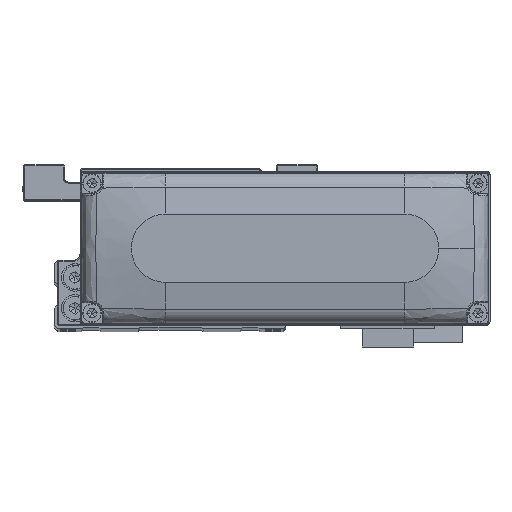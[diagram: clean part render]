
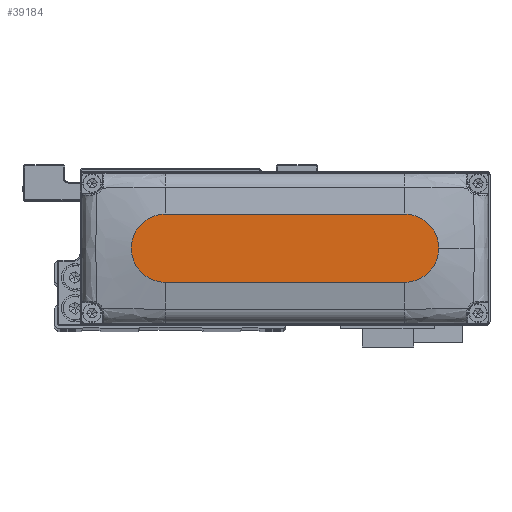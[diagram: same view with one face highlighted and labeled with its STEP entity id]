
A CAD part, top view. The second image highlights one B-rep face of the part: STEP entity #39184.
In plain terms, the highlighted planar face has unit normal (0, 0, 1).
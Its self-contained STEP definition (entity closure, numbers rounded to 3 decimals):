
#87 = ORIENTED_EDGE ( 'NONE', *, *, #38954, .T. ) ;
#282 = CIRCLE ( 'NONE', #5379, 10. ) ;
#2973 = DIRECTION ( 'NONE',  ( 1., 0., 0. ) ) ;
#3257 = CARTESIAN_POINT ( 'NONE',  ( -35., -10., 28. ) ) ;
#3337 = DIRECTION ( 'NONE',  ( 1., 0., 0. ) ) ;
#3616 = DIRECTION ( 'NONE',  ( 1., 0., 0. ) ) ;
#4637 = VERTEX_POINT ( 'NONE', #20233 ) ;
#5353 = ORIENTED_EDGE ( 'NONE', *, *, #6641, .T. ) ;
#5379 = AXIS2_PLACEMENT_3D ( 'NONE', #18800, #30968, #3616 ) ;
#5773 = ORIENTED_EDGE ( 'NONE', *, *, #19021, .T. ) ;
#6641 = EDGE_CURVE ( 'NONE', #4637, #14658, #9478, .T. ) ;
#7633 = DIRECTION ( 'NONE',  ( 1., 0., 0. ) ) ;
#8170 = DIRECTION ( 'NONE',  ( 1., 0., 0. ) ) ;
#9478 = LINE ( 'NONE', #21657, #26327 ) ;
#11175 = PLANE ( 'NONE',  #14969 ) ;
#11186 = CIRCLE ( 'NONE', #33487, 10. ) ;
#11704 = VERTEX_POINT ( 'NONE', #3257 ) ;
#13463 = CARTESIAN_POINT ( 'NONE',  ( 35., -10., 28. ) ) ;
#14658 = VERTEX_POINT ( 'NONE', #38676 ) ;
#14969 = AXIS2_PLACEMENT_3D ( 'NONE', #23359, #35490, #8170 ) ;
#18151 = CARTESIAN_POINT ( 'NONE',  ( 35., 0., 28. ) ) ;
#18521 = CARTESIAN_POINT ( 'NONE',  ( 35., 0., 28. ) ) ;
#18800 = CARTESIAN_POINT ( 'NONE',  ( -35., 0., 28. ) ) ;
#19021 = EDGE_CURVE ( 'NONE', #29009, #4637, #32071, .T. ) ;
#19410 = CARTESIAN_POINT ( 'NONE',  ( 45., 0., 28. ) ) ;
#20233 = CARTESIAN_POINT ( 'NONE',  ( 35., 10., 28. ) ) ;
#21650 = ORIENTED_EDGE ( 'NONE', *, *, #30684, .T. ) ;
#21657 = CARTESIAN_POINT ( 'NONE',  ( -35., 10., 28. ) ) ;
#21884 = EDGE_CURVE ( 'NONE', #24191, #29009, #11186, .T. ) ;
#22818 = LINE ( 'NONE', #34960, #28984 ) ;
#23204 = ORIENTED_EDGE ( 'NONE', *, *, #21884, .T. ) ;
#23359 = CARTESIAN_POINT ( 'NONE',  ( 0., 0., 28. ) ) ;
#24191 = VERTEX_POINT ( 'NONE', #13463 ) ;
#26327 = VECTOR ( 'NONE', #33804, 1000. ) ;
#28984 = VECTOR ( 'NONE', #7633, 1000. ) ;
#29009 = VERTEX_POINT ( 'NONE', #19410 ) ;
#30320 = DIRECTION ( 'NONE',  ( 0., 0., 1. ) ) ;
#30677 = DIRECTION ( 'NONE',  ( 0., 0., 1. ) ) ;
#30684 = EDGE_CURVE ( 'NONE', #11704, #24191, #22818, .T. ) ;
#30968 = DIRECTION ( 'NONE',  ( 0., 0., 1. ) ) ;
#32071 = CIRCLE ( 'NONE', #37146, 10. ) ;
#33487 = AXIS2_PLACEMENT_3D ( 'NONE', #18151, #30320, #2973 ) ;
#33804 = DIRECTION ( 'NONE',  ( -1., 0., 0. ) ) ;
#34960 = CARTESIAN_POINT ( 'NONE',  ( -35., -10., 28. ) ) ;
#35490 = DIRECTION ( 'NONE',  ( 0., 0., 1. ) ) ;
#36390 = EDGE_LOOP ( 'NONE', ( #5353, #87, #21650, #23204, #5773 ) ) ;
#37146 = AXIS2_PLACEMENT_3D ( 'NONE', #18521, #30677, #3337 ) ;
#38486 = FACE_OUTER_BOUND ( 'NONE', #36390, .T. ) ;
#38676 = CARTESIAN_POINT ( 'NONE',  ( -35., 10., 28. ) ) ;
#38954 = EDGE_CURVE ( 'NONE', #14658, #11704, #282, .T. ) ;
#39184 = ADVANCED_FACE ( 'NONE', ( #38486 ), #11175, .T. ) ;
